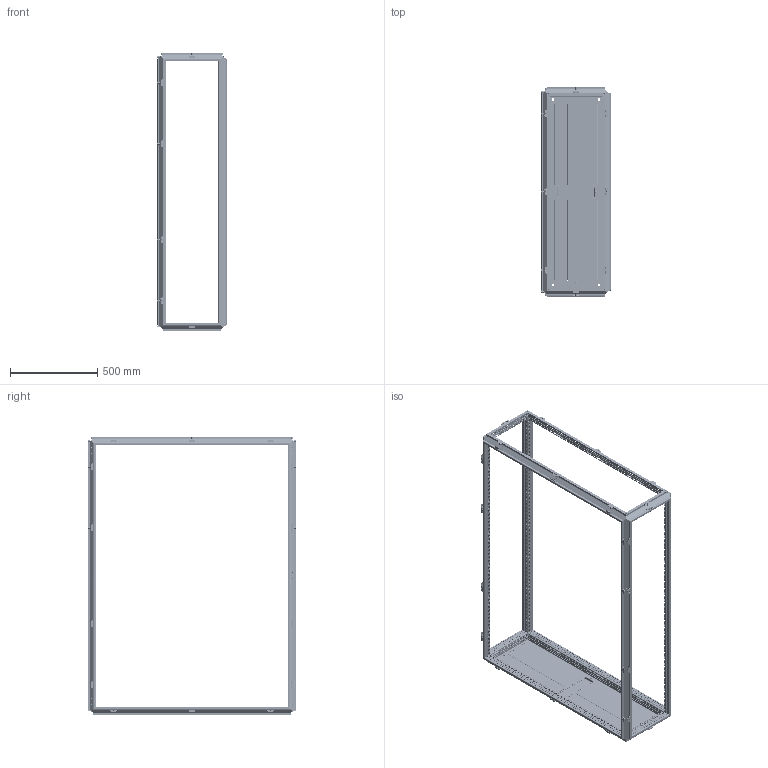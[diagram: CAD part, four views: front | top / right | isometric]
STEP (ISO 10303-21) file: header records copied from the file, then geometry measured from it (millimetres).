
FILE_DESCRIPTION(('STEP AP203'), '1');
FILE_NAME('3000 忺謤僔 捘', '', ('UNSPECIFIED'), ('UNSPECIFIED'), 'C3D Converter', 'C3D Toolkit', '');
FILE_SCHEMA(('CONFIG_CONTROL_DESIGN'));
Length unit declared in the file: millimetre
Products named in the file (13): 3000.160.120.40 СБ; 3000; 3007.175; 3007.75; 3006; 3009.04; 3009.04.01; 3009.04.2; 3009.04.01.2
Assembly tree (138 placements, depth 3):
  3000.160.120.40 СБ
    3000
    (unnamed)  x88
    3007.175  x2
    (unnamed)  x14
    3007.75  x2
    3006
    3009.04  x8
      3009.04.01
      (unnamed)
      (unnamed)
    3009.04.2  x13
      3009.04.01.2
      (unnamed)
      (unnamed)
Bounding box: 397 x 1197 x 1598.5 mm (x, y, z)
Volume: 3838290.5 mm3; surface area: 5070933.2 mm2
Topology: 221 solids, 221 shells, 16531 faces, 46267 edges, 30504 vertices
Faces by surface type: plane 11485, cylinder 4078, cone 624, torus 244, bspline 100
Full cylindrical faces by diameter (mm): 4.134 x122, 4.5 x1870, 4.8 x14, 5 x132, 5.8 x34, 6.8 x176, 7 x88, 7.5 x42, 8 x88, 9.2 x42, 10.106 x8, 14 x4
Entity records: 378890 total; most frequent: CARTESIAN_POINT 70155, ORIENTED_EDGE 60790, DIRECTION 57561, EDGE_CURVE 30395, LINE 24919, VECTOR 24919, VERTEX_POINT 21398, EDGE_LOOP 20707
